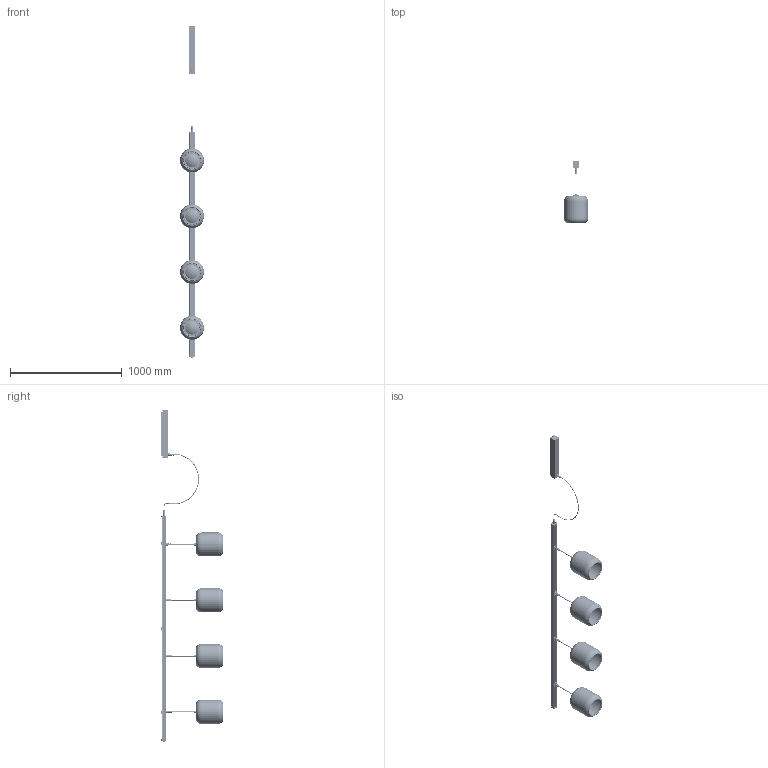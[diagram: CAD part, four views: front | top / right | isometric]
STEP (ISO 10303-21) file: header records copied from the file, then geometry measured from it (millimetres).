
FILE_DESCRIPTION (( 'STEP AP203' ), '1' );
FILE_NAME ('OUTRACK NANS PF-21-4L 13005104xxx.STEP', '2024-02-08T14:04:04', ( '' ), ( '' ), 'SwSTEP 2.0', 'SolidWorks 2019', '' );
FILE_SCHEMA (( 'CONFIG_CONTROL_DESIGN' ));
Length unit declared in the file: millimetre
Products named in the file (60): 000-130_521; 000-D965-410A2; 000-309-017; 000-TUERCA M16_150 CONECTOR LLT; 000-AC130500_TRIAC; 000-D913-33A2_M3X3mm; 000-130 OUTRACK ENSAMBLAJE CONECTOR INFERIOR 20_09_22; 000-D7985-34; 000-130_304; 000-130_503; 000-D7991-38 A2; 000-914-258; 000-130 OUTRACK TAPA ACOMETIDA 20_09_22_SIN PRENSA; 000-906.032 - AC130304-CURVADO; 000-30901229YYY NANS S-21 OUT SISTEMA 24VDC; 000-133-035; 000-906-024; 000-AC130201; 000-130_517; 000-309-029; 000-133-037-12; 000-130_504; 000-914-052; 000-918-150; 000-133-038-12; 000-914-231; 000-D7991-310; 000-914-231HP; 000-130-115; 000-309-042; OUTRACK NANS PF-21-4L 13005104xxx; 000-309-045; 000-133-050; 000-309-006; 000-914-248; 000-AC130002; 000-309-043; 000-130_516; 000-D965-38_ISO 7046-1 - M3 x 5 - Z --- 5N; 000-905-023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
Assembly tree (212 placements, depth 4):
  OUTRACK NANS PF-21-4L 13005104xxx
    000-AC130002
      000-130_521
      000-130 OUTRACK TAPA ACOMETIDA 20_09_22
        000-130_516
        000-914-231HP
        000-130_517
        000-D965-38_ISO 7046-1 - M3 x 5 - Z --- 5N  x4
      000-130 OUTRACK TAPA ACOMETIDA 20_09_22_SIN PRENSA
        000-130_516
        000-914-231HP
        000-130_517
        000-D965-38_ISO 7046-1 - M3 x 5 - Z --- 5N  x4
      000-130 OUTRACK ENSAMBLAJE CONECTOR INFERIOR 20_09_22
        000-130_504
        000-130_304
        000-914-231HP
        000-D7991-310  x4
      000-130 OUTRACK ENSAMBLAJE CONECTOR INFERIOR 20_09_22
        000-130_504
        000-130_304
        000-914-231HP
        000-D7991-310  x4
      000-130 OUTRACK ENSAMBLAJE CONECTOR INFERIOR 20_09_22
        000-130_504
        000-130_304
        000-914-231HP
        000-D7991-310  x4
      000-130 OUTRACK ENSAMBLAJE CONECTOR INFERIOR 20_09_22
        000-130_504
        000-130_304
        000-914-231HP
        000-D7991-310  x4
      000-130-115
      000-914-258
    000-AC130304_AC130304-CURVADO
      000-914-231
      000-906.032 - AC130304-CURVADO
    000-30901229YYY NANS S-21 OUT SISTEMA 24VDC
      000-309-047
      000-914-052
      000-309-042
      000-309-044
      000-D7991-38 A2  x6
      000-309-041
      000-309-043  x3
      000-309-029
      000-906-024
      000-D913-33A2_M3X3mm
      000-309-017
      000-309-045  x3
      000-D965-34_D965-36-A2  x3
      000-309-006
      000-918-150
      000-914-231
    000-30901229YYY NANS S-21 OUT SISTEMA 24VDC
      000-309-047
      000-914-052
      000-309-042
      000-309-044
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Bounding box: 215 x 555.12 x 2975.6 mm (x, y, z)
Volume: 4478139.5 mm3; surface area: 3292609.1 mm2
Topology: 199 solids, 218 shells, 17939 faces, 46136 edges, 29752 vertices
Faces by surface type: plane 7821, bspline 4127, cylinder 3577, cone 1849, torus 531, sphere 34
Entity records: 213585 total; most frequent: CARTESIAN_POINT 82910, ORIENTED_EDGE 26800, DIRECTION 21831, EDGE_CURVE 13406, VERTEX_POINT 8743, LINE 7551, VECTOR 7551, AXIS2_PLACEMENT_3D 7140
